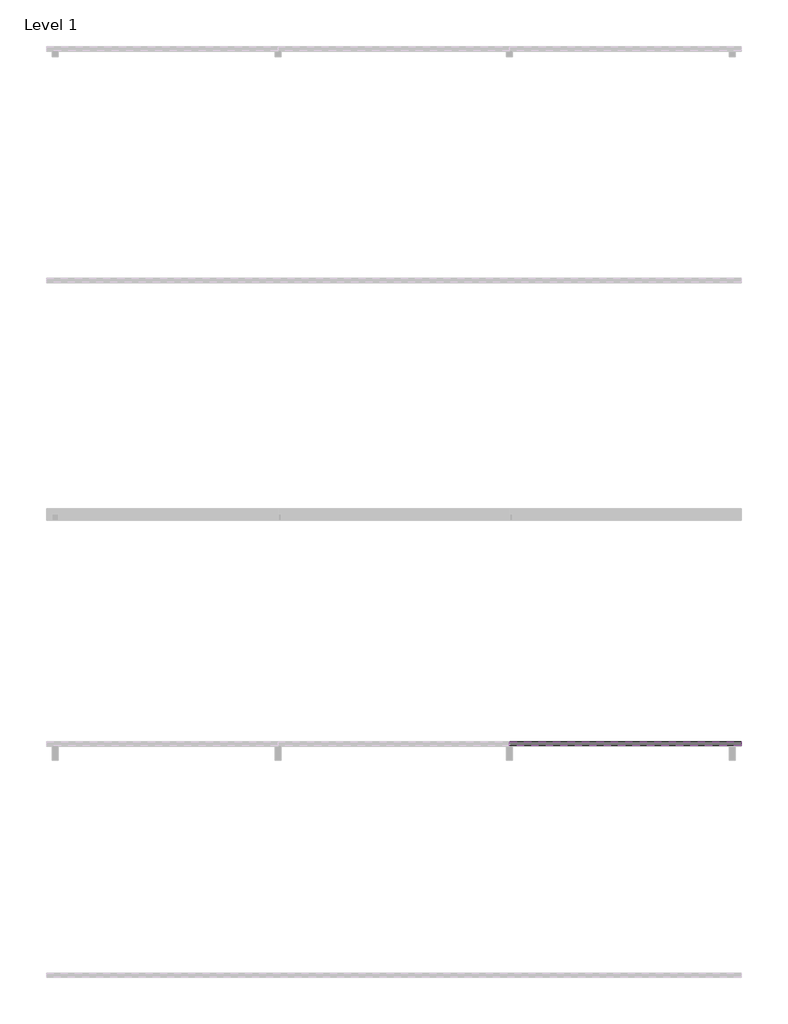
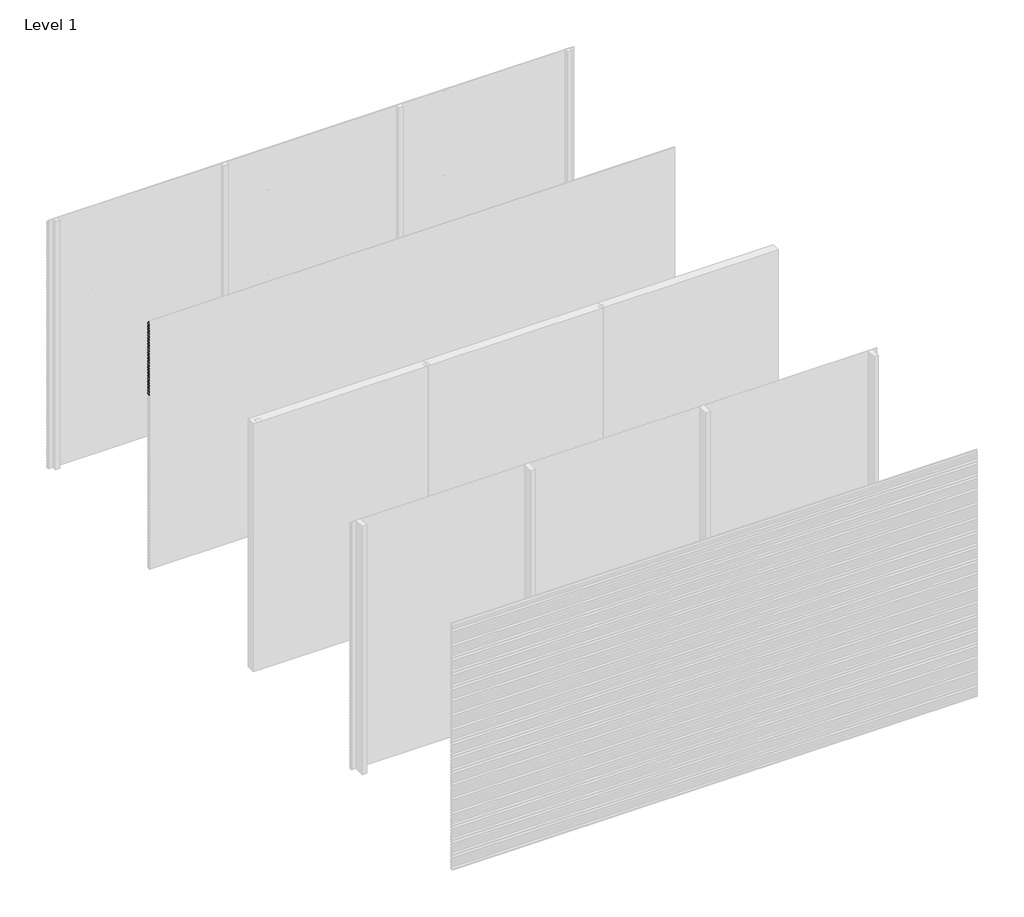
# One storey, part 5 of 17: 81 proxies.
"""IFC4 building model written with IfcOpenShell, lengths in millimetres."""

from ifc_helpers import new_model, si_unit, frame, origin, place, context, project, spatial, polyline, outline, extrude, element, save

model = new_model("IFC4")

# Units and contexts
model_context = context("Model", 3, world=origin())
ifc_project = project(units=[si_unit("LENGTHUNIT", "METRE", prefix="MILLI")], contexts=[model_context])

# Site, building, storey
site = spatial("IfcSite", under=ifc_project)
building = spatial("IfcBuilding", under=site)
storey = spatial("IfcBuildingStorey", under=building, Name="Level 1", Elevation=0.0)

# Proxies
placement = place(None, origin())
element("IfcBuildingElementProxy", 1, Name="Wall Sweeps", at=placement, inside=storey, context=model_context, shape_type="SweptSolid", body=[
    extrude(outline(polyline([(-13961.0, 2951.5), (-13961.0, 2936.5), (-13979.0, 2948.6411533), (-13997.0, 2936.5), (-13997.0, 2951.5), (-13980.0, 2962.9666448), (-13980.0, 2975.0), (-13978.0, 2975.0), (-13978.0, 2962.9666448), (-13961.0, 2951.5)])), frame((0.0, 0.0, 0.0), z_axis=(1.0, 0.0, 0.0), x_axis=(0.0, 1.0, 0.0)), (0.0, 0.0, 1.0), 6000.0),
])
element("IfcBuildingElementProxy", 2, Name="Wall Sweeps", at=placement, inside=storey, context=model_context, shape_type="SweptSolid", body=[
    extrude(outline(polyline([(-13961.0, 2916.5), (-13961.0, 2901.5), (-13979.0, 2913.6411533), (-13997.0, 2901.5), (-13997.0, 2916.5), (-13980.0, 2927.9666448), (-13980.0, 2940.0), (-13978.0, 2940.0), (-13978.0, 2927.9666448), (-13961.0, 2916.5)])), frame((0.0, 0.0, 0.0), z_axis=(1.0, 0.0, 0.0), x_axis=(0.0, 1.0, 0.0)), (0.0, 0.0, 1.0), 6000.0),
])
element("IfcBuildingElementProxy", 3, Name="Wall Sweeps", at=placement, inside=storey, context=model_context, shape_type="SweptSolid", body=[
    extrude(outline(polyline([(-13961.0, 2881.5), (-13961.0, 2866.5), (-13979.0, 2878.6411533), (-13997.0, 2866.5), (-13997.0, 2881.5), (-13980.0, 2892.9666448), (-13980.0, 2905.0), (-13978.0, 2905.0), (-13978.0, 2892.9666448), (-13961.0, 2881.5)])), frame((0.0, 0.0, 0.0), z_axis=(1.0, 0.0, 0.0), x_axis=(0.0, 1.0, 0.0)), (0.0, 0.0, 1.0), 6000.0),
])
element("IfcBuildingElementProxy", 4, Name="Wall Sweeps", at=placement, inside=storey, context=model_context, shape_type="SweptSolid", body=[
    extrude(outline(polyline([(-13961.0, 2846.5), (-13961.0, 2831.5), (-13979.0, 2843.6411533), (-13997.0, 2831.5), (-13997.0, 2846.5), (-13980.0, 2857.9666448), (-13980.0, 2870.0), (-13978.0, 2870.0), (-13978.0, 2857.9666448), (-13961.0, 2846.5)])), frame((0.0, 0.0, 0.0), z_axis=(1.0, 0.0, 0.0), x_axis=(0.0, 1.0, 0.0)), (0.0, 0.0, 1.0), 6000.0),
])
element("IfcBuildingElementProxy", 5, Name="Wall Sweeps", at=placement, inside=storey, context=model_context, shape_type="SweptSolid", body=[
    extrude(outline(polyline([(-13961.0, 2811.5), (-13961.0, 2796.5), (-13979.0, 2808.6411533), (-13997.0, 2796.5), (-13997.0, 2811.5), (-13980.0, 2822.9666448), (-13980.0, 2835.0), (-13978.0, 2835.0), (-13978.0, 2822.9666448), (-13961.0, 2811.5)])), frame((0.0, 0.0, 0.0), z_axis=(1.0, 0.0, 0.0), x_axis=(0.0, 1.0, 0.0)), (0.0, 0.0, 1.0), 6000.0),
])
element("IfcBuildingElementProxy", 6, Name="Wall Sweeps", at=placement, inside=storey, context=model_context, shape_type="SweptSolid", body=[
    extrude(outline(polyline([(-13961.0, 2776.5), (-13961.0, 2761.5), (-13979.0, 2773.6411533), (-13997.0, 2761.5), (-13997.0, 2776.5), (-13980.0, 2787.9666448), (-13980.0, 2800.0), (-13978.0, 2800.0), (-13978.0, 2787.9666448), (-13961.0, 2776.5)])), frame((0.0, 0.0, 0.0), z_axis=(1.0, 0.0, 0.0), x_axis=(0.0, 1.0, 0.0)), (0.0, 0.0, 1.0), 6000.0),
])
element("IfcBuildingElementProxy", 7, Name="Wall Sweeps", at=placement, inside=storey, context=model_context, shape_type="SweptSolid", body=[
    extrude(outline(polyline([(-13961.0, 2741.5), (-13961.0, 2726.5), (-13979.0, 2738.6411533), (-13997.0, 2726.5), (-13997.0, 2741.5), (-13980.0, 2752.9666448), (-13980.0, 2765.0), (-13978.0, 2765.0), (-13978.0, 2752.9666448), (-13961.0, 2741.5)])), frame((0.0, 0.0, 0.0), z_axis=(1.0, 0.0, 0.0), x_axis=(0.0, 1.0, 0.0)), (0.0, 0.0, 1.0), 6000.0),
])
element("IfcBuildingElementProxy", 8, Name="Wall Sweeps", at=placement, inside=storey, context=model_context, shape_type="SweptSolid", body=[
    extrude(outline(polyline([(-13961.0, 2706.5), (-13961.0, 2691.5), (-13979.0, 2703.6411533), (-13997.0, 2691.5), (-13997.0, 2706.5), (-13980.0, 2717.9666448), (-13980.0, 2730.0), (-13978.0, 2730.0), (-13978.0, 2717.9666448), (-13961.0, 2706.5)])), frame((0.0, 0.0, 0.0), z_axis=(1.0, 0.0, 0.0), x_axis=(0.0, 1.0, 0.0)), (0.0, 0.0, 1.0), 6000.0),
])
element("IfcBuildingElementProxy", 9, Name="Wall Sweeps", at=placement, inside=storey, context=model_context, shape_type="SweptSolid", body=[
    extrude(outline(polyline([(-13961.0, 2671.5), (-13961.0, 2656.5), (-13979.0, 2668.6411533), (-13997.0, 2656.5), (-13997.0, 2671.5), (-13980.0, 2682.9666448), (-13980.0, 2695.0), (-13978.0, 2695.0), (-13978.0, 2682.9666448), (-13961.0, 2671.5)])), frame((0.0, 0.0, 0.0), z_axis=(1.0, 0.0, 0.0), x_axis=(0.0, 1.0, 0.0)), (0.0, 0.0, 1.0), 6000.0),
])
element("IfcBuildingElementProxy", 10, Name="Wall Sweeps", at=placement, inside=storey, context=model_context, shape_type="SweptSolid", body=[
    extrude(outline(polyline([(-13961.0, 2636.5), (-13961.0, 2621.5), (-13979.0, 2633.6411533), (-13997.0, 2621.5), (-13997.0, 2636.5), (-13980.0, 2647.9666448), (-13980.0, 2660.0), (-13978.0, 2660.0), (-13978.0, 2647.9666448), (-13961.0, 2636.5)])), frame((0.0, 0.0, 0.0), z_axis=(1.0, 0.0, 0.0), x_axis=(0.0, 1.0, 0.0)), (0.0, 0.0, 1.0), 6000.0),
])
element("IfcBuildingElementProxy", 11, Name="Wall Sweeps", at=placement, inside=storey, context=model_context, shape_type="SweptSolid", body=[
    extrude(outline(polyline([(-13961.0, 2601.5), (-13961.0, 2586.5), (-13979.0, 2598.6411533), (-13997.0, 2586.5), (-13997.0, 2601.5), (-13980.0, 2612.9666448), (-13980.0, 2625.0), (-13978.0, 2625.0), (-13978.0, 2612.9666448), (-13961.0, 2601.5)])), frame((0.0, 0.0, 0.0), z_axis=(1.0, 0.0, 0.0), x_axis=(0.0, 1.0, 0.0)), (0.0, 0.0, 1.0), 6000.0),
])
element("IfcBuildingElementProxy", 12, Name="Wall Sweeps", at=placement, inside=storey, context=model_context, shape_type="SweptSolid", body=[
    extrude(outline(polyline([(-13961.0, 2566.5), (-13961.0, 2551.5), (-13979.0, 2563.6411533), (-13997.0, 2551.5), (-13997.0, 2566.5), (-13980.0, 2577.9666448), (-13980.0, 2590.0), (-13978.0, 2590.0), (-13978.0, 2577.9666448), (-13961.0, 2566.5)])), frame((0.0, 0.0, 0.0), z_axis=(1.0, 0.0, 0.0), x_axis=(0.0, 1.0, 0.0)), (0.0, 0.0, 1.0), 6000.0),
])
element("IfcBuildingElementProxy", 13, Name="Wall Sweeps", at=placement, inside=storey, context=model_context, shape_type="SweptSolid", body=[
    extrude(outline(polyline([(-13961.0, 2531.5), (-13961.0, 2516.5), (-13979.0, 2528.6411533), (-13997.0, 2516.5), (-13997.0, 2531.5), (-13980.0, 2542.9666448), (-13980.0, 2555.0), (-13978.0, 2555.0), (-13978.0, 2542.9666448), (-13961.0, 2531.5)])), frame((0.0, 0.0, 0.0), z_axis=(1.0, 0.0, 0.0), x_axis=(0.0, 1.0, 0.0)), (0.0, 0.0, 1.0), 6000.0),
])
element("IfcBuildingElementProxy", 14, Name="Wall Sweeps", at=placement, inside=storey, context=model_context, shape_type="SweptSolid", body=[
    extrude(outline(polyline([(-13961.0, 2496.5), (-13961.0, 2481.5), (-13979.0, 2493.6411533), (-13997.0, 2481.5), (-13997.0, 2496.5), (-13980.0, 2507.9666448), (-13980.0, 2520.0), (-13978.0, 2520.0), (-13978.0, 2507.9666448), (-13961.0, 2496.5)])), frame((0.0, 0.0, 0.0), z_axis=(1.0, 0.0, 0.0), x_axis=(0.0, 1.0, 0.0)), (0.0, 0.0, 1.0), 6000.0),
])
element("IfcBuildingElementProxy", 15, Name="Wall Sweeps", at=placement, inside=storey, context=model_context, shape_type="SweptSolid", body=[
    extrude(outline(polyline([(-13961.0, 2461.5), (-13961.0, 2446.5), (-13979.0, 2458.6411533), (-13997.0, 2446.5), (-13997.0, 2461.5), (-13980.0, 2472.9666448), (-13980.0, 2485.0), (-13978.0, 2485.0), (-13978.0, 2472.9666448), (-13961.0, 2461.5)])), frame((0.0, 0.0, 0.0), z_axis=(1.0, 0.0, 0.0), x_axis=(0.0, 1.0, 0.0)), (0.0, 0.0, 1.0), 6000.0),
])
element("IfcBuildingElementProxy", 16, Name="Wall Sweeps", at=placement, inside=storey, context=model_context, shape_type="SweptSolid", body=[
    extrude(outline(polyline([(-13961.0, 2426.5), (-13961.0, 2411.5), (-13979.0, 2423.6411533), (-13997.0, 2411.5), (-13997.0, 2426.5), (-13980.0, 2437.9666448), (-13980.0, 2450.0), (-13978.0, 2450.0), (-13978.0, 2437.9666448), (-13961.0, 2426.5)])), frame((0.0, 0.0, 0.0), z_axis=(1.0, 0.0, 0.0), x_axis=(0.0, 1.0, 0.0)), (0.0, 0.0, 1.0), 6000.0),
])
element("IfcBuildingElementProxy", 17, Name="Wall Sweeps", at=placement, inside=storey, context=model_context, shape_type="SweptSolid", body=[
    extrude(outline(polyline([(-13961.0, 2391.5), (-13961.0, 2376.5), (-13979.0, 2388.6411533), (-13997.0, 2376.5), (-13997.0, 2391.5), (-13980.0, 2402.9666448), (-13980.0, 2415.0), (-13978.0, 2415.0), (-13978.0, 2402.9666448), (-13961.0, 2391.5)])), frame((0.0, 0.0, 0.0), z_axis=(1.0, 0.0, 0.0), x_axis=(0.0, 1.0, 0.0)), (0.0, 0.0, 1.0), 6000.0),
])
element("IfcBuildingElementProxy", 18, Name="Wall Sweeps", at=placement, inside=storey, context=model_context, shape_type="SweptSolid", body=[
    extrude(outline(polyline([(-13961.0, 2356.5), (-13961.0, 2341.5), (-13979.0, 2353.6411533), (-13997.0, 2341.5), (-13997.0, 2356.5), (-13980.0, 2367.9666448), (-13980.0, 2380.0), (-13978.0, 2380.0), (-13978.0, 2367.9666448), (-13961.0, 2356.5)])), frame((0.0, 0.0, 0.0), z_axis=(1.0, 0.0, 0.0), x_axis=(0.0, 1.0, 0.0)), (0.0, 0.0, 1.0), 6000.0),
])
element("IfcBuildingElementProxy", 19, Name="Wall Sweeps", at=placement, inside=storey, context=model_context, shape_type="SweptSolid", body=[
    extrude(outline(polyline([(-13961.0, 2321.5), (-13961.0, 2306.5), (-13979.0, 2318.6411533), (-13997.0, 2306.5), (-13997.0, 2321.5), (-13980.0, 2332.9666448), (-13980.0, 2345.0), (-13978.0, 2345.0), (-13978.0, 2332.9666448), (-13961.0, 2321.5)])), frame((0.0, 0.0, 0.0), z_axis=(1.0, 0.0, 0.0), x_axis=(0.0, 1.0, 0.0)), (0.0, 0.0, 1.0), 6000.0),
])
element("IfcBuildingElementProxy", 20, Name="Wall Sweeps", at=placement, inside=storey, context=model_context, shape_type="SweptSolid", body=[
    extrude(outline(polyline([(-13961.0, 2286.5), (-13961.0, 2271.5), (-13979.0, 2283.6411533), (-13997.0, 2271.5), (-13997.0, 2286.5), (-13980.0, 2297.9666448), (-13980.0, 2310.0), (-13978.0, 2310.0), (-13978.0, 2297.9666448), (-13961.0, 2286.5)])), frame((0.0, 0.0, 0.0), z_axis=(1.0, 0.0, 0.0), x_axis=(0.0, 1.0, 0.0)), (0.0, 0.0, 1.0), 6000.0),
])
element("IfcBuildingElementProxy", 21, Name="Wall Sweeps", at=placement, inside=storey, context=model_context, shape_type="SweptSolid", body=[
    extrude(outline(polyline([(-13961.0, 2251.5), (-13961.0, 2236.5), (-13979.0, 2248.6411533), (-13997.0, 2236.5), (-13997.0, 2251.5), (-13980.0, 2262.9666448), (-13980.0, 2275.0), (-13978.0, 2275.0), (-13978.0, 2262.9666448), (-13961.0, 2251.5)])), frame((0.0, 0.0, 0.0), z_axis=(1.0, 0.0, 0.0), x_axis=(0.0, 1.0, 0.0)), (0.0, 0.0, 1.0), 6000.0),
])
element("IfcBuildingElementProxy", 22, Name="Wall Sweeps", at=placement, inside=storey, context=model_context, shape_type="SweptSolid", body=[
    extrude(outline(polyline([(-13961.0, 2216.5), (-13961.0, 2201.5), (-13979.0, 2213.6411533), (-13997.0, 2201.5), (-13997.0, 2216.5), (-13980.0, 2227.9666448), (-13980.0, 2240.0), (-13978.0, 2240.0), (-13978.0, 2227.9666448), (-13961.0, 2216.5)])), frame((0.0, 0.0, 0.0), z_axis=(1.0, 0.0, 0.0), x_axis=(0.0, 1.0, 0.0)), (0.0, 0.0, 1.0), 6000.0),
])
element("IfcBuildingElementProxy", 23, Name="Wall Sweeps", at=placement, inside=storey, context=model_context, shape_type="SweptSolid", body=[
    extrude(outline(polyline([(-13961.0, 2181.5), (-13961.0, 2166.5), (-13979.0, 2178.6411533), (-13997.0, 2166.5), (-13997.0, 2181.5), (-13980.0, 2192.9666448), (-13980.0, 2205.0), (-13978.0, 2205.0), (-13978.0, 2192.9666448), (-13961.0, 2181.5)])), frame((0.0, 0.0, 0.0), z_axis=(1.0, 0.0, 0.0), x_axis=(0.0, 1.0, 0.0)), (0.0, 0.0, 1.0), 6000.0),
])
element("IfcBuildingElementProxy", 24, Name="Wall Sweeps", at=placement, inside=storey, context=model_context, shape_type="SweptSolid", body=[
    extrude(outline(polyline([(-13961.0, 2146.5), (-13961.0, 2131.5), (-13979.0, 2143.6411533), (-13997.0, 2131.5), (-13997.0, 2146.5), (-13980.0, 2157.9666448), (-13980.0, 2170.0), (-13978.0, 2170.0), (-13978.0, 2157.9666448), (-13961.0, 2146.5)])), frame((0.0, 0.0, 0.0), z_axis=(1.0, 0.0, 0.0), x_axis=(0.0, 1.0, 0.0)), (0.0, 0.0, 1.0), 6000.0),
])
element("IfcBuildingElementProxy", 25, Name="Wall Sweeps", at=placement, inside=storey, context=model_context, shape_type="SweptSolid", body=[
    extrude(outline(polyline([(-13961.0, 2111.5), (-13961.0, 2096.5), (-13979.0, 2108.6411533), (-13997.0, 2096.5), (-13997.0, 2111.5), (-13980.0, 2122.9666448), (-13980.0, 2135.0), (-13978.0, 2135.0), (-13978.0, 2122.9666448), (-13961.0, 2111.5)])), frame((0.0, 0.0, 0.0), z_axis=(1.0, 0.0, 0.0), x_axis=(0.0, 1.0, 0.0)), (0.0, 0.0, 1.0), 6000.0),
])
element("IfcBuildingElementProxy", 26, Name="Wall Sweeps", at=placement, inside=storey, context=model_context, shape_type="SweptSolid", body=[
    extrude(outline(polyline([(-17961.0, 1936.5), (-17961.0, 1921.5), (-17979.0, 1933.6411533), (-17997.0, 1921.5), (-17997.0, 1936.5), (-17980.0, 1947.9666448), (-17980.0, 1960.0), (-17978.0, 1960.0), (-17978.0, 1947.9666448), (-17961.0, 1936.5)])), frame((3999.9999999, 0.0, 0.0), z_axis=(1.0, 0.0, 0.0), x_axis=(0.0, 1.0, 0.0)), (0.0, 0.0, 1.0), 2000.0000001),
])
element("IfcBuildingElementProxy", 27, Name="Wall Sweeps", at=placement, inside=storey, context=model_context, shape_type="SweptSolid", body=[
    extrude(outline(polyline([(-17961.0, 1901.5), (-17961.0, 1886.5), (-17979.0, 1898.6411533), (-17997.0, 1886.5), (-17997.0, 1901.5), (-17980.0, 1912.9666448), (-17980.0, 1925.0), (-17978.0, 1925.0), (-17978.0, 1912.9666448), (-17961.0, 1901.5)])), frame((3999.9999999, 0.0, 0.0), z_axis=(1.0, 0.0, 0.0), x_axis=(0.0, 1.0, 0.0)), (0.0, 0.0, 1.0), 2000.0000001),
])
element("IfcBuildingElementProxy", 28, Name="Wall Sweeps", at=placement, inside=storey, context=model_context, shape_type="SweptSolid", body=[
    extrude(outline(polyline([(-17961.0, 1866.5), (-17961.0, 1851.5), (-17979.0, 1863.6411533), (-17997.0, 1851.5), (-17997.0, 1866.5), (-17980.0, 1877.9666448), (-17980.0, 1890.0), (-17978.0, 1890.0), (-17978.0, 1877.9666448), (-17961.0, 1866.5)])), frame((3999.9999999, 0.0, 0.0), z_axis=(1.0, 0.0, 0.0), x_axis=(0.0, 1.0, 0.0)), (0.0, 0.0, 1.0), 2000.0000001),
])
element("IfcBuildingElementProxy", 29, Name="Wall Sweeps", at=placement, inside=storey, context=model_context, shape_type="SweptSolid", body=[
    extrude(outline(polyline([(-17961.0, 1831.5), (-17961.0, 1816.5), (-17979.0, 1828.6411533), (-17997.0, 1816.5), (-17997.0, 1831.5), (-17980.0, 1842.9666448), (-17980.0, 1855.0), (-17978.0, 1855.0), (-17978.0, 1842.9666448), (-17961.0, 1831.5)])), frame((3999.9999999, 0.0, 0.0), z_axis=(1.0, 0.0, 0.0), x_axis=(0.0, 1.0, 0.0)), (0.0, 0.0, 1.0), 2000.0000001),
])
element("IfcBuildingElementProxy", 30, Name="Wall Sweeps", at=placement, inside=storey, context=model_context, shape_type="SweptSolid", body=[
    extrude(outline(polyline([(-17961.0, 1796.5), (-17961.0, 1781.5), (-17979.0, 1793.6411533), (-17997.0, 1781.5), (-17997.0, 1796.5), (-17980.0, 1807.9666448), (-17980.0, 1820.0), (-17978.0, 1820.0), (-17978.0, 1807.9666448), (-17961.0, 1796.5)])), frame((3999.9999999, 0.0, 0.0), z_axis=(1.0, 0.0, 0.0), x_axis=(0.0, 1.0, 0.0)), (0.0, 0.0, 1.0), 2000.0000001),
])
element("IfcBuildingElementProxy", 31, Name="Wall Sweeps", at=placement, inside=storey, context=model_context, shape_type="SweptSolid", body=[
    extrude(outline(polyline([(-17961.0, 1761.5), (-17961.0, 1746.5), (-17979.0, 1758.6411533), (-17997.0, 1746.5), (-17997.0, 1761.5), (-17980.0, 1772.9666448), (-17980.0, 1785.0), (-17978.0, 1785.0), (-17978.0, 1772.9666448), (-17961.0, 1761.5)])), frame((3999.9999999, 0.0, 0.0), z_axis=(1.0, 0.0, 0.0), x_axis=(0.0, 1.0, 0.0)), (0.0, 0.0, 1.0), 2000.0000001),
])
element("IfcBuildingElementProxy", 32, Name="Wall Sweeps", at=placement, inside=storey, context=model_context, shape_type="SweptSolid", body=[
    extrude(outline(polyline([(-17961.0, 1726.5), (-17961.0, 1711.5), (-17979.0, 1723.6411533), (-17997.0, 1711.5), (-17997.0, 1726.5), (-17980.0, 1737.9666448), (-17980.0, 1750.0), (-17978.0, 1750.0), (-17978.0, 1737.9666448), (-17961.0, 1726.5)])), frame((3999.9999999, 0.0, 0.0), z_axis=(1.0, 0.0, 0.0), x_axis=(0.0, 1.0, 0.0)), (0.0, 0.0, 1.0), 2000.0000001),
])
element("IfcBuildingElementProxy", 33, Name="Wall Sweeps", at=placement, inside=storey, context=model_context, shape_type="SweptSolid", body=[
    extrude(outline(polyline([(-17961.0, 1691.5), (-17961.0, 1676.5), (-17979.0, 1688.6411533), (-17997.0, 1676.5), (-17997.0, 1691.5), (-17980.0, 1702.9666448), (-17980.0, 1715.0), (-17978.0, 1715.0), (-17978.0, 1702.9666448), (-17961.0, 1691.5)])), frame((3999.9999999, 0.0, 0.0), z_axis=(1.0, 0.0, 0.0), x_axis=(0.0, 1.0, 0.0)), (0.0, 0.0, 1.0), 2000.0000001),
])
element("IfcBuildingElementProxy", 34, Name="Wall Sweeps", at=placement, inside=storey, context=model_context, shape_type="SweptSolid", body=[
    extrude(outline(polyline([(-17961.0, 1656.5), (-17961.0, 1641.5), (-17979.0, 1653.6411533), (-17997.0, 1641.5), (-17997.0, 1656.5), (-17980.0, 1667.9666448), (-17980.0, 1680.0), (-17978.0, 1680.0), (-17978.0, 1667.9666448), (-17961.0, 1656.5)])), frame((3999.9999999, 0.0, 0.0), z_axis=(1.0, 0.0, 0.0), x_axis=(0.0, 1.0, 0.0)), (0.0, 0.0, 1.0), 2000.0000001),
])
element("IfcBuildingElementProxy", 35, Name="Wall Sweeps", at=placement, inside=storey, context=model_context, shape_type="SweptSolid", body=[
    extrude(outline(polyline([(-17961.0, 1621.5), (-17961.0, 1606.5), (-17979.0, 1618.6411533), (-17997.0, 1606.5), (-17997.0, 1621.5), (-17980.0, 1632.9666448), (-17980.0, 1645.0), (-17978.0, 1645.0), (-17978.0, 1632.9666448), (-17961.0, 1621.5)])), frame((3999.9999999, 0.0, 0.0), z_axis=(1.0, 0.0, 0.0), x_axis=(0.0, 1.0, 0.0)), (0.0, 0.0, 1.0), 2000.0000001),
])
element("IfcBuildingElementProxy", 36, Name="Wall Sweeps", at=placement, inside=storey, context=model_context, shape_type="SweptSolid", body=[
    extrude(outline(polyline([(-17961.0, 1586.5), (-17961.0, 1571.5), (-17979.0, 1583.6411533), (-17997.0, 1571.5), (-17997.0, 1586.5), (-17980.0, 1597.9666448), (-17980.0, 1610.0), (-17978.0, 1610.0), (-17978.0, 1597.9666448), (-17961.0, 1586.5)])), frame((3999.9999999, 0.0, 0.0), z_axis=(1.0, 0.0, 0.0), x_axis=(0.0, 1.0, 0.0)), (0.0, 0.0, 1.0), 2000.0000001),
])
element("IfcBuildingElementProxy", 37, Name="Wall Sweeps", at=placement, inside=storey, context=model_context, shape_type="SweptSolid", body=[
    extrude(outline(polyline([(-17961.0, 1551.5), (-17961.0, 1536.5), (-17979.0, 1548.6411533), (-17997.0, 1536.5), (-17997.0, 1551.5), (-17980.0, 1562.9666448), (-17980.0, 1575.0), (-17978.0, 1575.0), (-17978.0, 1562.9666448), (-17961.0, 1551.5)])), frame((3999.9999999, 0.0, 0.0), z_axis=(1.0, 0.0, 0.0), x_axis=(0.0, 1.0, 0.0)), (0.0, 0.0, 1.0), 2000.0000001),
])
element("IfcBuildingElementProxy", 38, Name="Wall Sweeps", at=placement, inside=storey, context=model_context, shape_type="SweptSolid", body=[
    extrude(outline(polyline([(-17961.0, 1516.5), (-17961.0, 1501.5), (-17979.0, 1513.6411533), (-17997.0, 1501.5), (-17997.0, 1516.5), (-17980.0, 1527.9666448), (-17980.0, 1540.0), (-17978.0, 1540.0), (-17978.0, 1527.9666448), (-17961.0, 1516.5)])), frame((3999.9999999, 0.0, 0.0), z_axis=(1.0, 0.0, 0.0), x_axis=(0.0, 1.0, 0.0)), (0.0, 0.0, 1.0), 2000.0000001),
])
element("IfcBuildingElementProxy", 39, Name="Wall Sweeps", at=placement, inside=storey, context=model_context, shape_type="SweptSolid", body=[
    extrude(outline(polyline([(-17961.0, 1481.5), (-17961.0, 1466.5), (-17979.0, 1478.6411533), (-17997.0, 1466.5), (-17997.0, 1481.5), (-17980.0, 1492.9666448), (-17980.0, 1505.0), (-17978.0, 1505.0), (-17978.0, 1492.9666448), (-17961.0, 1481.5)])), frame((3999.9999999, 0.0, 0.0), z_axis=(1.0, 0.0, 0.0), x_axis=(0.0, 1.0, 0.0)), (0.0, 0.0, 1.0), 2000.0000001),
])
element("IfcBuildingElementProxy", 40, Name="Wall Sweeps", at=placement, inside=storey, context=model_context, shape_type="SweptSolid", body=[
    extrude(outline(polyline([(-17961.0, 1446.5), (-17961.0, 1431.5), (-17979.0, 1443.6411533), (-17997.0, 1431.5), (-17997.0, 1446.5), (-17980.0, 1457.9666448), (-17980.0, 1470.0), (-17978.0, 1470.0), (-17978.0, 1457.9666448), (-17961.0, 1446.5)])), frame((3999.9999999, 0.0, 0.0), z_axis=(1.0, 0.0, 0.0), x_axis=(0.0, 1.0, 0.0)), (0.0, 0.0, 1.0), 2000.0000001),
])
element("IfcBuildingElementProxy", 41, Name="Wall Sweeps", at=placement, inside=storey, context=model_context, shape_type="SweptSolid", body=[
    extrude(outline(polyline([(-17961.0, 1411.5), (-17961.0, 1396.5), (-17979.0, 1408.6411533), (-17997.0, 1396.5), (-17997.0, 1411.5), (-17980.0, 1422.9666448), (-17980.0, 1435.0), (-17978.0, 1435.0), (-17978.0, 1422.9666448), (-17961.0, 1411.5)])), frame((3999.9999999, 0.0, 0.0), z_axis=(1.0, 0.0, 0.0), x_axis=(0.0, 1.0, 0.0)), (0.0, 0.0, 1.0), 2000.0000001),
])
element("IfcBuildingElementProxy", 42, Name="Wall Sweeps", at=placement, inside=storey, context=model_context, shape_type="SweptSolid", body=[
    extrude(outline(polyline([(-17961.0, 1376.5), (-17961.0, 1361.5), (-17979.0, 1373.6411533), (-17997.0, 1361.5), (-17997.0, 1376.5), (-17980.0, 1387.9666448), (-17980.0, 1400.0), (-17978.0, 1400.0), (-17978.0, 1387.9666448), (-17961.0, 1376.5)])), frame((3999.9999999, 0.0, 0.0), z_axis=(1.0, 0.0, 0.0), x_axis=(0.0, 1.0, 0.0)), (0.0, 0.0, 1.0), 2000.0000001),
])
element("IfcBuildingElementProxy", 43, Name="Wall Sweeps", at=placement, inside=storey, context=model_context, shape_type="SweptSolid", body=[
    extrude(outline(polyline([(-17961.0, 1341.5), (-17961.0, 1326.5), (-17979.0, 1338.6411533), (-17997.0, 1326.5), (-17997.0, 1341.5), (-17980.0, 1352.9666448), (-17980.0, 1365.0), (-17978.0, 1365.0), (-17978.0, 1352.9666448), (-17961.0, 1341.5)])), frame((3999.9999999, 0.0, 0.0), z_axis=(1.0, 0.0, 0.0), x_axis=(0.0, 1.0, 0.0)), (0.0, 0.0, 1.0), 2000.0000001),
])
element("IfcBuildingElementProxy", 44, Name="Wall Sweeps", at=placement, inside=storey, context=model_context, shape_type="SweptSolid", body=[
    extrude(outline(polyline([(-17961.0, 1306.5), (-17961.0, 1291.5), (-17979.0, 1303.6411533), (-17997.0, 1291.5), (-17997.0, 1306.5), (-17980.0, 1317.9666448), (-17980.0, 1330.0), (-17978.0, 1330.0), (-17978.0, 1317.9666448), (-17961.0, 1306.5)])), frame((3999.9999999, 0.0, 0.0), z_axis=(1.0, 0.0, 0.0), x_axis=(0.0, 1.0, 0.0)), (0.0, 0.0, 1.0), 2000.0000001),
])
element("IfcBuildingElementProxy", 45, Name="Wall Sweeps", at=placement, inside=storey, context=model_context, shape_type="SweptSolid", body=[
    extrude(outline(polyline([(-17961.0, 1271.5), (-17961.0, 1256.5), (-17979.0, 1268.6411533), (-17997.0, 1256.5), (-17997.0, 1271.5), (-17980.0, 1282.9666448), (-17980.0, 1295.0), (-17978.0, 1295.0), (-17978.0, 1282.9666448), (-17961.0, 1271.5)])), frame((3999.9999999, 0.0, 0.0), z_axis=(1.0, 0.0, 0.0), x_axis=(0.0, 1.0, 0.0)), (0.0, 0.0, 1.0), 2000.0000001),
])
element("IfcBuildingElementProxy", 46, Name="Wall Sweeps", at=placement, inside=storey, context=model_context, shape_type="SweptSolid", body=[
    extrude(outline(polyline([(-17961.0, 1236.5), (-17961.0, 1221.5), (-17979.0, 1233.6411533), (-17997.0, 1221.5), (-17997.0, 1236.5), (-17980.0, 1247.9666448), (-17980.0, 1260.0), (-17978.0, 1260.0), (-17978.0, 1247.9666448), (-17961.0, 1236.5)])), frame((3999.9999999, 0.0, 0.0), z_axis=(1.0, 0.0, 0.0), x_axis=(0.0, 1.0, 0.0)), (0.0, 0.0, 1.0), 2000.0000001),
])
element("IfcBuildingElementProxy", 47, Name="Wall Sweeps", at=placement, inside=storey, context=model_context, shape_type="SweptSolid", body=[
    extrude(outline(polyline([(-17961.0, 1201.5), (-17961.0, 1186.5), (-17979.0, 1198.6411533), (-17997.0, 1186.5), (-17997.0, 1201.5), (-17980.0, 1212.9666448), (-17980.0, 1225.0), (-17978.0, 1225.0), (-17978.0, 1212.9666448), (-17961.0, 1201.5)])), frame((3999.9999999, 0.0, 0.0), z_axis=(1.0, 0.0, 0.0), x_axis=(0.0, 1.0, 0.0)), (0.0, 0.0, 1.0), 2000.0000001),
])
element("IfcBuildingElementProxy", 48, Name="Wall Sweeps", at=placement, inside=storey, context=model_context, shape_type="SweptSolid", body=[
    extrude(outline(polyline([(-17961.0, 1166.5), (-17961.0, 1151.5), (-17979.0, 1163.6411533), (-17997.0, 1151.5), (-17997.0, 1166.5), (-17980.0, 1177.9666448), (-17980.0, 1190.0), (-17978.0, 1190.0), (-17978.0, 1177.9666448), (-17961.0, 1166.5)])), frame((3999.9999999, 0.0, 0.0), z_axis=(1.0, 0.0, 0.0), x_axis=(0.0, 1.0, 0.0)), (0.0, 0.0, 1.0), 2000.0000001),
])
element("IfcBuildingElementProxy", 49, Name="Wall Sweeps", at=placement, inside=storey, context=model_context, shape_type="SweptSolid", body=[
    extrude(outline(polyline([(-17961.0, 1131.5), (-17961.0, 1116.5), (-17979.0, 1128.6411533), (-17997.0, 1116.5), (-17997.0, 1131.5), (-17980.0, 1142.9666448), (-17980.0, 1155.0), (-17978.0, 1155.0), (-17978.0, 1142.9666448), (-17961.0, 1131.5)])), frame((3999.9999999, 0.0, 0.0), z_axis=(1.0, 0.0, 0.0), x_axis=(0.0, 1.0, 0.0)), (0.0, 0.0, 1.0), 2000.0000001),
])
element("IfcBuildingElementProxy", 50, Name="Wall Sweeps", at=placement, inside=storey, context=model_context, shape_type="SweptSolid", body=[
    extrude(outline(polyline([(-17961.0, 1096.5), (-17961.0, 1081.5), (-17979.0, 1093.6411533), (-17997.0, 1081.5), (-17997.0, 1096.5), (-17980.0, 1107.9666448), (-17980.0, 1120.0), (-17978.0, 1120.0), (-17978.0, 1107.9666448), (-17961.0, 1096.5)])), frame((3999.9999999, 0.0, 0.0), z_axis=(1.0, 0.0, 0.0), x_axis=(0.0, 1.0, 0.0)), (0.0, 0.0, 1.0), 2000.0000001),
])
element("IfcBuildingElementProxy", 51, Name="Wall Sweeps", at=placement, inside=storey, context=model_context, shape_type="SweptSolid", body=[
    extrude(outline(polyline([(-17961.0, 1061.5), (-17961.0, 1046.5), (-17979.0, 1058.6411533), (-17997.0, 1046.5), (-17997.0, 1061.5), (-17980.0, 1072.9666448), (-17980.0, 1085.0), (-17978.0, 1085.0), (-17978.0, 1072.9666448), (-17961.0, 1061.5)])), frame((3999.9999999, 0.0, 0.0), z_axis=(1.0, 0.0, 0.0), x_axis=(0.0, 1.0, 0.0)), (0.0, 0.0, 1.0), 2000.0000001),
])
element("IfcBuildingElementProxy", 52, Name="Wall Sweeps", at=placement, inside=storey, context=model_context, shape_type="SweptSolid", body=[
    extrude(outline(polyline([(-17961.0, 1026.5), (-17961.0, 1011.5), (-17979.0, 1023.6411533), (-17997.0, 1011.5), (-17997.0, 1026.5), (-17980.0, 1037.9666448), (-17980.0, 1050.0), (-17978.0, 1050.0), (-17978.0, 1037.9666448), (-17961.0, 1026.5)])), frame((3999.9999999, 0.0, 0.0), z_axis=(1.0, 0.0, 0.0), x_axis=(0.0, 1.0, 0.0)), (0.0, 0.0, 1.0), 2000.0000001),
])
element("IfcBuildingElementProxy", 53, Name="Wall Sweeps", at=placement, inside=storey, context=model_context, shape_type="SweptSolid", body=[
    extrude(outline(polyline([(-17961.0, 991.5), (-17961.0, 976.5), (-17979.0, 988.6411533), (-17997.0, 976.5), (-17997.0, 991.5), (-17980.0, 1002.9666448), (-17980.0, 1015.0), (-17978.0, 1015.0), (-17978.0, 1002.9666448), (-17961.0, 991.5)])), frame((3999.9999999, 0.0, 0.0), z_axis=(1.0, 0.0, 0.0), x_axis=(0.0, 1.0, 0.0)), (0.0, 0.0, 1.0), 2000.0000001),
])
element("IfcBuildingElementProxy", 54, Name="Wall Sweeps", at=placement, inside=storey, context=model_context, shape_type="SweptSolid", body=[
    extrude(outline(polyline([(-17961.0, 956.5), (-17961.0, 941.5), (-17979.0, 953.6411533), (-17997.0, 941.5), (-17997.0, 956.5), (-17980.0, 967.9666448), (-17980.0, 980.0), (-17978.0, 980.0), (-17978.0, 967.9666448), (-17961.0, 956.5)])), frame((3999.9999999, 0.0, 0.0), z_axis=(1.0, 0.0, 0.0), x_axis=(0.0, 1.0, 0.0)), (0.0, 0.0, 1.0), 2000.0000001),
])
element("IfcBuildingElementProxy", 55, Name="Wall Sweeps", at=placement, inside=storey, context=model_context, shape_type="SweptSolid", body=[
    extrude(outline(polyline([(-17961.0, 921.5), (-17961.0, 906.5), (-17979.0, 918.6411533), (-17997.0, 906.5), (-17997.0, 921.5), (-17980.0, 932.9666448), (-17980.0, 945.0), (-17978.0, 945.0), (-17978.0, 932.9666448), (-17961.0, 921.5)])), frame((3999.9999999, 0.0, 0.0), z_axis=(1.0, 0.0, 0.0), x_axis=(0.0, 1.0, 0.0)), (0.0, 0.0, 1.0), 2000.0000001),
])
element("IfcBuildingElementProxy", 56, Name="Wall Sweeps", at=placement, inside=storey, context=model_context, shape_type="SweptSolid", body=[
    extrude(outline(polyline([(-17961.0, 886.5), (-17961.0, 871.5), (-17979.0, 883.6411533), (-17997.0, 871.5), (-17997.0, 886.5), (-17980.0, 897.9666448), (-17980.0, 910.0), (-17978.0, 910.0), (-17978.0, 897.9666448), (-17961.0, 886.5)])), frame((3999.9999999, 0.0, 0.0), z_axis=(1.0, 0.0, 0.0), x_axis=(0.0, 1.0, 0.0)), (0.0, 0.0, 1.0), 2000.0000001),
])
element("IfcBuildingElementProxy", 57, Name="Wall Sweeps", at=placement, inside=storey, context=model_context, shape_type="SweptSolid", body=[
    extrude(outline(polyline([(-17961.0, 851.5), (-17961.0, 836.5), (-17979.0, 848.6411533), (-17997.0, 836.5), (-17997.0, 851.5), (-17980.0, 862.9666448), (-17980.0, 875.0), (-17978.0, 875.0), (-17978.0, 862.9666448), (-17961.0, 851.5)])), frame((3999.9999999, 0.0, 0.0), z_axis=(1.0, 0.0, 0.0), x_axis=(0.0, 1.0, 0.0)), (0.0, 0.0, 1.0), 2000.0000001),
])
element("IfcBuildingElementProxy", 58, Name="Wall Sweeps", at=placement, inside=storey, context=model_context, shape_type="SweptSolid", body=[
    extrude(outline(polyline([(-17961.0, 816.5), (-17961.0, 801.5), (-17979.0, 813.6411533), (-17997.0, 801.5), (-17997.0, 816.5), (-17980.0, 827.9666448), (-17980.0, 840.0), (-17978.0, 840.0), (-17978.0, 827.9666448), (-17961.0, 816.5)])), frame((3999.9999999, 0.0, 0.0), z_axis=(1.0, 0.0, 0.0), x_axis=(0.0, 1.0, 0.0)), (0.0, 0.0, 1.0), 2000.0000001),
])
element("IfcBuildingElementProxy", 59, Name="Wall Sweeps", at=placement, inside=storey, context=model_context, shape_type="SweptSolid", body=[
    extrude(outline(polyline([(-17961.0, 781.5), (-17961.0, 766.5), (-17979.0, 778.6411533), (-17997.0, 766.5), (-17997.0, 781.5), (-17980.0, 792.9666448), (-17980.0, 805.0), (-17978.0, 805.0), (-17978.0, 792.9666448), (-17961.0, 781.5)])), frame((3999.9999999, 0.0, 0.0), z_axis=(1.0, 0.0, 0.0), x_axis=(0.0, 1.0, 0.0)), (0.0, 0.0, 1.0), 2000.0000001),
])
element("IfcBuildingElementProxy", 60, Name="Wall Sweeps", at=placement, inside=storey, context=model_context, shape_type="SweptSolid", body=[
    extrude(outline(polyline([(-17961.0, 746.5), (-17961.0, 731.5), (-17979.0, 743.6411533), (-17997.0, 731.5), (-17997.0, 746.5), (-17980.0, 757.9666448), (-17980.0, 770.0), (-17978.0, 770.0), (-17978.0, 757.9666448), (-17961.0, 746.5)])), frame((3999.9999999, 0.0, 0.0), z_axis=(1.0, 0.0, 0.0), x_axis=(0.0, 1.0, 0.0)), (0.0, 0.0, 1.0), 2000.0000001),
])
element("IfcBuildingElementProxy", 61, Name="Wall Sweeps", at=placement, inside=storey, context=model_context, shape_type="SweptSolid", body=[
    extrude(outline(polyline([(-17961.0, 711.5), (-17961.0, 696.5), (-17979.0, 708.6411533), (-17997.0, 696.5), (-17997.0, 711.5), (-17980.0, 722.9666448), (-17980.0, 735.0), (-17978.0, 735.0), (-17978.0, 722.9666448), (-17961.0, 711.5)])), frame((3999.9999999, 0.0, 0.0), z_axis=(1.0, 0.0, 0.0), x_axis=(0.0, 1.0, 0.0)), (0.0, 0.0, 1.0), 2000.0000001),
])
element("IfcBuildingElementProxy", 62, Name="Wall Sweeps", at=placement, inside=storey, context=model_context, shape_type="SweptSolid", body=[
    extrude(outline(polyline([(-17961.0, 676.5), (-17961.0, 661.5), (-17979.0, 673.6411533), (-17997.0, 661.5), (-17997.0, 676.5), (-17980.0, 687.9666448), (-17980.0, 700.0), (-17978.0, 700.0), (-17978.0, 687.9666448), (-17961.0, 676.5)])), frame((3999.9999999, 0.0, 0.0), z_axis=(1.0, 0.0, 0.0), x_axis=(0.0, 1.0, 0.0)), (0.0, 0.0, 1.0), 2000.0000001),
])
element("IfcBuildingElementProxy", 63, Name="Wall Sweeps", at=placement, inside=storey, context=model_context, shape_type="SweptSolid", body=[
    extrude(outline(polyline([(-17961.0, 641.5), (-17961.0, 626.5), (-17979.0, 638.6411533), (-17997.0, 626.5), (-17997.0, 641.5), (-17980.0, 652.9666448), (-17980.0, 665.0), (-17978.0, 665.0), (-17978.0, 652.9666448), (-17961.0, 641.5)])), frame((3999.9999999, 0.0, 0.0), z_axis=(1.0, 0.0, 0.0), x_axis=(0.0, 1.0, 0.0)), (0.0, 0.0, 1.0), 2000.0000001),
])
element("IfcBuildingElementProxy", 64, Name="Wall Sweeps", at=placement, inside=storey, context=model_context, shape_type="SweptSolid", body=[
    extrude(outline(polyline([(-17961.0, 606.5), (-17961.0, 591.5), (-17979.0, 603.6411533), (-17997.0, 591.5), (-17997.0, 606.5), (-17980.0, 617.9666448), (-17980.0, 630.0), (-17978.0, 630.0), (-17978.0, 617.9666448), (-17961.0, 606.5)])), frame((3999.9999999, 0.0, 0.0), z_axis=(1.0, 0.0, 0.0), x_axis=(0.0, 1.0, 0.0)), (0.0, 0.0, 1.0), 2000.0000001),
])
element("IfcBuildingElementProxy", 65, Name="Wall Sweeps", at=placement, inside=storey, context=model_context, shape_type="SweptSolid", body=[
    extrude(outline(polyline([(-17961.0, 571.5), (-17961.0, 556.5), (-17979.0, 568.6411533), (-17997.0, 556.5), (-17997.0, 571.5), (-17980.0, 582.9666448), (-17980.0, 595.0), (-17978.0, 595.0), (-17978.0, 582.9666448), (-17961.0, 571.5)])), frame((3999.9999999, 0.0, 0.0), z_axis=(1.0, 0.0, 0.0), x_axis=(0.0, 1.0, 0.0)), (0.0, 0.0, 1.0), 2000.0000001),
])
element("IfcBuildingElementProxy", 66, Name="Wall Sweeps", at=placement, inside=storey, context=model_context, shape_type="SweptSolid", body=[
    extrude(outline(polyline([(-17961.0, 536.5), (-17961.0, 521.5), (-17979.0, 533.6411533), (-17997.0, 521.5), (-17997.0, 536.5), (-17980.0, 547.9666448), (-17980.0, 560.0), (-17978.0, 560.0), (-17978.0, 547.9666448), (-17961.0, 536.5)])), frame((3999.9999999, 0.0, 0.0), z_axis=(1.0, 0.0, 0.0), x_axis=(0.0, 1.0, 0.0)), (0.0, 0.0, 1.0), 2000.0000001),
])
element("IfcBuildingElementProxy", 67, Name="Wall Sweeps", at=placement, inside=storey, context=model_context, shape_type="SweptSolid", body=[
    extrude(outline(polyline([(-17961.0, 501.5), (-17961.0, 486.5), (-17979.0, 498.6411533), (-17997.0, 486.5), (-17997.0, 501.5), (-17980.0, 512.9666448), (-17980.0, 525.0), (-17978.0, 525.0), (-17978.0, 512.9666448), (-17961.0, 501.5)])), frame((3999.9999999, 0.0, 0.0), z_axis=(1.0, 0.0, 0.0), x_axis=(0.0, 1.0, 0.0)), (0.0, 0.0, 1.0), 2000.0000001),
])
element("IfcBuildingElementProxy", 68, Name="Wall Sweeps", at=placement, inside=storey, context=model_context, shape_type="SweptSolid", body=[
    extrude(outline(polyline([(-17961.0, 466.5), (-17961.0, 451.5), (-17979.0, 463.6411533), (-17997.0, 451.5), (-17997.0, 466.5), (-17980.0, 477.9666448), (-17980.0, 490.0), (-17978.0, 490.0), (-17978.0, 477.9666448), (-17961.0, 466.5)])), frame((3999.9999999, 0.0, 0.0), z_axis=(1.0, 0.0, 0.0), x_axis=(0.0, 1.0, 0.0)), (0.0, 0.0, 1.0), 2000.0000001),
])
element("IfcBuildingElementProxy", 69, Name="Wall Sweeps", at=placement, inside=storey, context=model_context, shape_type="SweptSolid", body=[
    extrude(outline(polyline([(-17961.0, 431.5), (-17961.0, 416.5), (-17979.0, 428.6411533), (-17997.0, 416.5), (-17997.0, 431.5), (-17980.0, 442.9666448), (-17980.0, 455.0), (-17978.0, 455.0), (-17978.0, 442.9666448), (-17961.0, 431.5)])), frame((3999.9999999, 0.0, 0.0), z_axis=(1.0, 0.0, 0.0), x_axis=(0.0, 1.0, 0.0)), (0.0, 0.0, 1.0), 2000.0000001),
])
element("IfcBuildingElementProxy", 70, Name="Wall Sweeps", at=placement, inside=storey, context=model_context, shape_type="SweptSolid", body=[
    extrude(outline(polyline([(-17961.0, 396.5), (-17961.0, 381.5), (-17979.0, 393.6411533), (-17997.0, 381.5), (-17997.0, 396.5), (-17980.0, 407.9666448), (-17980.0, 420.0), (-17978.0, 420.0), (-17978.0, 407.9666448), (-17961.0, 396.5)])), frame((3999.9999999, 0.0, 0.0), z_axis=(1.0, 0.0, 0.0), x_axis=(0.0, 1.0, 0.0)), (0.0, 0.0, 1.0), 2000.0000001),
])
element("IfcBuildingElementProxy", 71, Name="Wall Sweeps", at=placement, inside=storey, context=model_context, shape_type="SweptSolid", body=[
    extrude(outline(polyline([(-17961.0, 361.5), (-17961.0, 346.5), (-17979.0, 358.6411533), (-17997.0, 346.5), (-17997.0, 361.5), (-17980.0, 372.9666448), (-17980.0, 385.0), (-17978.0, 385.0), (-17978.0, 372.9666448), (-17961.0, 361.5)])), frame((3999.9999999, 0.0, 0.0), z_axis=(1.0, 0.0, 0.0), x_axis=(0.0, 1.0, 0.0)), (0.0, 0.0, 1.0), 2000.0000001),
])
element("IfcBuildingElementProxy", 72, Name="Wall Sweeps", at=placement, inside=storey, context=model_context, shape_type="SweptSolid", body=[
    extrude(outline(polyline([(-17961.0, 326.5), (-17961.0, 311.5), (-17979.0, 323.6411533), (-17997.0, 311.5), (-17997.0, 326.5), (-17980.0, 337.9666448), (-17980.0, 350.0), (-17978.0, 350.0), (-17978.0, 337.9666448), (-17961.0, 326.5)])), frame((3999.9999999, 0.0, 0.0), z_axis=(1.0, 0.0, 0.0), x_axis=(0.0, 1.0, 0.0)), (0.0, 0.0, 1.0), 2000.0000001),
])
element("IfcBuildingElementProxy", 73, Name="Wall Sweeps", at=placement, inside=storey, context=model_context, shape_type="SweptSolid", body=[
    extrude(outline(polyline([(-17961.0, 291.5), (-17961.0, 276.5), (-17979.0, 288.6411533), (-17997.0, 276.5), (-17997.0, 291.5), (-17980.0, 302.9666448), (-17980.0, 315.0), (-17978.0, 315.0), (-17978.0, 302.9666448), (-17961.0, 291.5)])), frame((3999.9999999, 0.0, 0.0), z_axis=(1.0, 0.0, 0.0), x_axis=(0.0, 1.0, 0.0)), (0.0, 0.0, 1.0), 2000.0000001),
])
element("IfcBuildingElementProxy", 74, Name="Wall Sweeps", at=placement, inside=storey, context=model_context, shape_type="SweptSolid", body=[
    extrude(outline(polyline([(-17961.0, 256.5), (-17961.0, 241.5), (-17979.0, 253.6411533), (-17997.0, 241.5), (-17997.0, 256.5), (-17980.0, 267.9666448), (-17980.0, 280.0), (-17978.0, 280.0), (-17978.0, 267.9666448), (-17961.0, 256.5)])), frame((3999.9999999, 0.0, 0.0), z_axis=(1.0, 0.0, 0.0), x_axis=(0.0, 1.0, 0.0)), (0.0, 0.0, 1.0), 2000.0000001),
])
element("IfcBuildingElementProxy", 75, Name="Wall Sweeps", at=placement, inside=storey, context=model_context, shape_type="SweptSolid", body=[
    extrude(outline(polyline([(-17961.0, 221.5), (-17961.0, 206.5), (-17979.0, 218.6411533), (-17997.0, 206.5), (-17997.0, 221.5), (-17980.0, 232.9666448), (-17980.0, 245.0), (-17978.0, 245.0), (-17978.0, 232.9666448), (-17961.0, 221.5)])), frame((3999.9999999, 0.0, 0.0), z_axis=(1.0, 0.0, 0.0), x_axis=(0.0, 1.0, 0.0)), (0.0, 0.0, 1.0), 2000.0000001),
])
element("IfcBuildingElementProxy", 76, Name="Wall Sweeps", at=placement, inside=storey, context=model_context, shape_type="SweptSolid", body=[
    extrude(outline(polyline([(-17961.0, 186.5), (-17961.0, 171.5), (-17979.0, 183.6411533), (-17997.0, 171.5), (-17997.0, 186.5), (-17980.0, 197.9666448), (-17980.0, 210.0), (-17978.0, 210.0), (-17978.0, 197.9666448), (-17961.0, 186.5)])), frame((3999.9999999, 0.0, 0.0), z_axis=(1.0, 0.0, 0.0), x_axis=(0.0, 1.0, 0.0)), (0.0, 0.0, 1.0), 2000.0000001),
])
element("IfcBuildingElementProxy", 77, Name="Wall Sweeps", at=placement, inside=storey, context=model_context, shape_type="SweptSolid", body=[
    extrude(outline(polyline([(-17961.0, 151.5), (-17961.0, 136.5), (-17979.0, 148.6411533), (-17997.0, 136.5), (-17997.0, 151.5), (-17980.0, 162.9666448), (-17980.0, 175.0), (-17978.0, 175.0), (-17978.0, 162.9666448), (-17961.0, 151.5)])), frame((3999.9999999, 0.0, 0.0), z_axis=(1.0, 0.0, 0.0), x_axis=(0.0, 1.0, 0.0)), (0.0, 0.0, 1.0), 2000.0000001),
])
element("IfcBuildingElementProxy", 78, Name="Wall Sweeps", at=placement, inside=storey, context=model_context, shape_type="SweptSolid", body=[
    extrude(outline(polyline([(-17961.0, 116.5), (-17961.0, 101.5), (-17979.0, 113.6411533), (-17997.0, 101.5), (-17997.0, 116.5), (-17980.0, 127.9666448), (-17980.0, 140.0), (-17978.0, 140.0), (-17978.0, 127.9666448), (-17961.0, 116.5)])), frame((3999.9999999, 0.0, 0.0), z_axis=(1.0, 0.0, 0.0), x_axis=(0.0, 1.0, 0.0)), (0.0, 0.0, 1.0), 2000.0000001),
])
element("IfcBuildingElementProxy", 79, Name="Wall Sweeps", at=placement, inside=storey, context=model_context, shape_type="SweptSolid", body=[
    extrude(outline(polyline([(-17961.0, 81.5), (-17961.0, 66.5), (-17979.0, 78.6411533), (-17997.0, 66.5), (-17997.0, 81.5), (-17980.0, 92.9666448), (-17980.0, 105.0), (-17978.0, 105.0), (-17978.0, 92.9666448), (-17961.0, 81.5)])), frame((3999.9999999, 0.0, 0.0), z_axis=(1.0, 0.0, 0.0), x_axis=(0.0, 1.0, 0.0)), (0.0, 0.0, 1.0), 2000.0000001),
])
element("IfcBuildingElementProxy", 80, Name="Wall Sweeps", at=placement, inside=storey, context=model_context, shape_type="SweptSolid", body=[
    extrude(outline(polyline([(-17961.0, 46.5), (-17961.0, 31.5), (-17979.0, 43.6411533), (-17997.0, 31.5), (-17997.0, 46.5), (-17980.0, 57.9666448), (-17980.0, 70.0), (-17978.0, 70.0), (-17978.0, 57.9666448), (-17961.0, 46.5)])), frame((3999.9999999, 0.0, 0.0), z_axis=(1.0, 0.0, 0.0), x_axis=(0.0, 1.0, 0.0)), (0.0, 0.0, 1.0), 2000.0000001),
])
element("IfcBuildingElementProxy", 81, Name="Wall Sweeps", at=placement, inside=storey, context=model_context, shape_type="SweptSolid", body=[
    extrude(outline(polyline([(-17961.0, 11.5), (-17961.0, -3.5), (-17979.0, 8.6411533), (-17997.0, -3.5), (-17997.0, 11.5), (-17980.0, 22.9666448), (-17980.0, 35.0), (-17978.0, 35.0), (-17978.0, 22.9666448), (-17961.0, 11.5)])), frame((3999.9999999, 0.0, 0.0), z_axis=(1.0, 0.0, 0.0), x_axis=(0.0, 1.0, 0.0)), (0.0, 0.0, 1.0), 2000.0000001),
])

save(model, "model.ifc")
